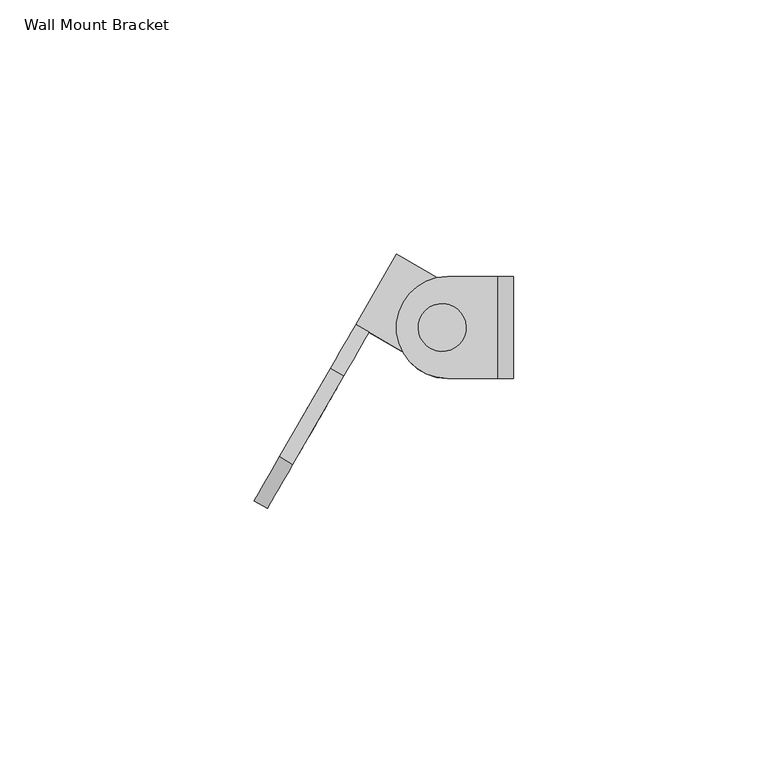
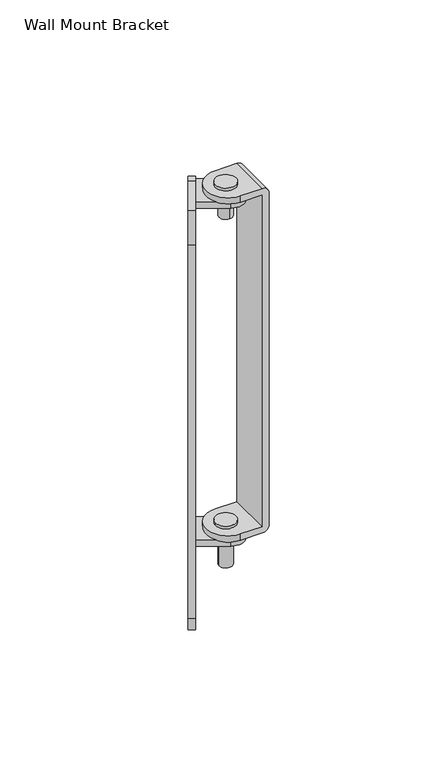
"""IFC4 building model written with IfcOpenShell, lengths in millimetres: proxy geometry, d&b xC-Series Wall Mount Bracket : Wall Mount Bracket."""

from ifc_helpers import new_model, si_unit, point, frame, origin, origin_2d, place, context, project, spatial, polyline, circle_curve, trimmed, segment, composite_curve, outline, extrude, source, transform, mapped, element, save
from ifc_brep_helpers import plane_surface, cylinder_surface, revolved_surface, advanced_brep


def wall_mount_bracket_8d6413a4(model_context):
    return source(origin(), model_context, "Body", "SolidModel", [
        advanced_brep(
        [(-31.9903811, -25.4089653, 100.0), (-21.9903811, -8.0884573, 100.0), (-16.9903811, 0.5717968, 90.0), (-16.9903811, 0.5717968, 83.0), (-8.9903811, 14.4282032, 83.0), (-8.9903811, 14.4282032, -83.0), (-16.9903811, 0.5717968, -83.0), (-16.9903811, 0.5717968, -90.0), (-21.9903811, -8.0884573, -100.0), (-31.9903811, -25.4089653, -100.0), (-36.9903811, -34.0692194, -90.0), (-36.9903811, -34.0692194, 90.0), (-30.7403811, -23.2439018, -15.0), (-23.2403811, -10.2535208, -15.0), (-23.2403811, -10.2535208, 15.0), (-30.7403811, -23.2439018, 15.0), (-26.9903811, -16.7487113, 71.75), (-26.9903811, -16.7487113, 78.25), (-26.9903811, -16.7487113, -78.25), (-26.9903811, -16.7487113, -71.75), (-29.3923048, -26.9089653, 100.0), (-34.3923048, -35.5692194, 90.0), (-34.3923048, -35.5692194, -90.0), (-29.3923048, -26.9089653, -100.0), (-19.3923048, -9.5884573, -100.0), (-14.3923048, -0.9282032, -90.0), (-14.3923048, -0.9282032, -83.0), (-14.3923048, -0.9282032, -80.0), (-6.3923048, 12.9282032, -80.0), (-6.3923048, 12.9282032, 80.0), (-14.3923048, -0.9282032, 80.0), (-14.3923048, -0.9282032, 83.0), (-14.3923048, -0.9282032, 90.0), (-19.3923048, -9.5884573, 100.0), (-28.1423048, -24.7439018, -15.0), (-28.1423048, -24.7439018, 15.0), (-20.6423048, -11.7535208, 15.0), (-20.6423048, -11.7535208, -15.0), (-24.3923048, -18.2487113, 71.75), (-24.3923048, -18.2487113, 78.25), (-24.3923048, -18.2487113, -78.25), (-24.3923048, -18.2487113, -71.75), (5.7320508, 5.9282032, -80.0), (5.7320508, 5.9282032, -83.0), (5.7320508, 5.9282032, 83.0), (5.7320508, 5.9282032, 80.0), (-2.2679492, -7.9282032, 83.0), (5.9282032, -5.7320508, 83.0), (7.9282032, -2.2679492, 83.0), (7.9282032, -2.2679492, 80.0), (5.9282032, -5.7320508, 80.0), (-2.2679492, -7.9282032, 80.0), (-2.2679492, -7.9282032, -80.0), (5.9282032, -5.7320508, -80.0), (7.9282032, -2.2679492, -80.0), (7.9282032, -2.2679492, -83.0), (5.9282032, -5.7320508, -83.0), (-2.2679492, -7.9282032, -83.0)],
        [
            (0, 1),
            (1, 2, circle_curve(frame((-21.9903811, -8.0884573, 90.0), z_axis=(-0.8660254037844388, 0.4999999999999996, 0.0), x_axis=(0.0, 0.0, 1.0)), 10.0)),
            (2, 3),
            (3, 4),
            (4, 5),
            (5, 6),
            (6, 7),
            (7, 8, circle_curve(frame((-21.9903811, -8.0884573, -90.0), z_axis=(-0.8660254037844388, 0.4999999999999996, 0.0), x_axis=(0.0, 0.0, 1.0)), 10.0)),
            (8, 9),
            (9, 10, circle_curve(frame((-31.9903811, -25.4089653, -90.0), z_axis=(-0.8660254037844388, 0.4999999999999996, 0.0), x_axis=(0.0, 0.0, 1.0)), 10.0)),
            (10, 11),
            (11, 0, circle_curve(frame((-31.9903811, -25.4089653, 90.0), z_axis=(-0.8660254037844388, 0.4999999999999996, 0.0), x_axis=(0.0, 0.0, 1.0)), 10.0)),
            (12, 13, circle_curve(frame((-26.9903811, -16.7487113, -15.0), z_axis=(0.8660254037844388, -0.4999999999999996, 0.0), x_axis=(0.0, 0.0, 1.0)), 7.5)),
            (13, 14),
            (14, 15, circle_curve(frame((-26.9903811, -16.7487113, 15.0), z_axis=(0.8660254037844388, -0.4999999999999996, 0.0), x_axis=(0.0, 0.0, 1.0)), 7.5)),
            (15, 12),
            (16, 17, circle_curve(frame((-26.9903811, -16.7487113, 75.0), z_axis=(0.8660254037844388, -0.4999999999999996, 0.0), x_axis=(0.0, 0.0, 1.0)), 3.25)),
            (17, 16, circle_curve(frame((-26.9903811, -16.7487113, 75.0), z_axis=(0.8660254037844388, -0.4999999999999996, 0.0), x_axis=(0.0, 0.0, 1.0)), 3.25)),
            (18, 19, circle_curve(frame((-26.9903811, -16.7487113, -75.0), z_axis=(0.8660254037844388, -0.4999999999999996, 0.0), x_axis=(0.0, 0.0, 1.0)), 3.25)),
            (19, 18, circle_curve(frame((-26.9903811, -16.7487113, -75.0), z_axis=(0.8660254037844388, -0.4999999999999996, 0.0), x_axis=(0.0, 0.0, 1.0)), 3.25)),
            (20, 21, circle_curve(frame((-29.3923048, -26.9089653, 90.0), z_axis=(0.8660254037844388, -0.4999999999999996, 0.0), x_axis=(0.0, 0.0, 1.0)), 10.0)),
            (21, 22),
            (22, 23, circle_curve(frame((-29.3923048, -26.9089653, -90.0), z_axis=(0.8660254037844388, -0.4999999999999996, 0.0), x_axis=(0.0, 0.0, 1.0)), 10.0)),
            (23, 24),
            (24, 25, circle_curve(frame((-19.3923048, -9.5884573, -90.0), z_axis=(0.8660254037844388, -0.4999999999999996, 0.0), x_axis=(0.0, 0.0, 1.0)), 10.0)),
            (25, 26),
            (26, 27),
            (27, 28),
            (28, 29),
            (29, 30),
            (30, 31),
            (31, 32),
            (32, 33, circle_curve(frame((-19.3923048, -9.5884573, 90.0), z_axis=(0.8660254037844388, -0.4999999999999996, 0.0), x_axis=(0.0, 0.0, 1.0)), 10.0)),
            (33, 20),
            (34, 35),
            (35, 36, circle_curve(frame((-24.3923048, -18.2487113, 15.0), z_axis=(-0.8660254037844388, 0.4999999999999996, 0.0), x_axis=(0.0, 0.0, 1.0)), 7.5)),
            (36, 37),
            (37, 34, circle_curve(frame((-24.3923048, -18.2487113, -15.0), z_axis=(-0.8660254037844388, 0.4999999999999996, 0.0), x_axis=(0.0, 0.0, 1.0)), 7.5)),
            (38, 39, circle_curve(frame((-24.3923048, -18.2487113, 75.0), z_axis=(-0.8660254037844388, 0.4999999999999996, 0.0), x_axis=(0.0, 0.0, 1.0)), 3.25)),
            (39, 38, circle_curve(frame((-24.3923048, -18.2487113, 75.0), z_axis=(-0.8660254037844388, 0.4999999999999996, 0.0), x_axis=(0.0, 0.0, 1.0)), 3.25)),
            (40, 41, circle_curve(frame((-24.3923048, -18.2487113, -75.0), z_axis=(-0.8660254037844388, 0.4999999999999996, 0.0), x_axis=(0.0, 0.0, 1.0)), 3.25)),
            (41, 40, circle_curve(frame((-24.3923048, -18.2487113, -75.0), z_axis=(-0.8660254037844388, 0.4999999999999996, 0.0), x_axis=(0.0, 0.0, 1.0)), 3.25)),
            (0, 20),
            (33, 1),
            (32, 2),
            (31, 3),
            (28, 42),
            (42, 43),
            (43, 5),
            (4, 44),
            (44, 45),
            (45, 29),
            (25, 7),
            (6, 26),
            (24, 8),
            (23, 9),
            (22, 10),
            (21, 11),
            (12, 34),
            (37, 13),
            (36, 14),
            (35, 15),
            (46, 47, circle_curve(frame((0.7320508, -2.7320508, 83.0), z_axis=(0.0, 0.0, 1.0), x_axis=(-0.8660254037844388, 0.4999999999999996, 0.0)), 6.0)),
            (47, 48),
            (48, 44, circle_curve(frame((2.7320508, 0.7320508, 83.0), z_axis=(0.0, 0.0, 1.0), x_axis=(-0.8660254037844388, 0.4999999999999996, 0.0)), 6.0)),
            (31, 46),
            (45, 49, circle_curve(frame((2.7320508, 0.7320508, 80.0), z_axis=(0.0, 0.0, -1.0), x_axis=(-0.8660254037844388, 0.4999999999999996, 0.0)), 6.0)),
            (49, 50),
            (50, 51, circle_curve(frame((0.7320508, -2.7320508, 80.0), z_axis=(0.0, 0.0, -1.0), x_axis=(-0.8660254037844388, 0.4999999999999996, 0.0)), 6.0)),
            (51, 30),
            (46, 51),
            (50, 47),
            (49, 48),
            (52, 53, circle_curve(frame((0.7320508, -2.7320508, -80.0), z_axis=(0.0, 0.0, 1.0), x_axis=(-0.8660254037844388, 0.4999999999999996, 0.0)), 6.0)),
            (53, 54),
            (54, 42, circle_curve(frame((2.7320508, 0.7320508, -80.0), z_axis=(0.0, 0.0, 1.0), x_axis=(-0.8660254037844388, 0.4999999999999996, 0.0)), 6.0)),
            (27, 52),
            (43, 55, circle_curve(frame((2.7320508, 0.7320508, -83.0), z_axis=(0.0, 0.0, -1.0), x_axis=(-0.8660254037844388, 0.4999999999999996, 0.0)), 6.0)),
            (55, 56),
            (56, 57, circle_curve(frame((0.7320508, -2.7320508, -83.0), z_axis=(0.0, 0.0, -1.0), x_axis=(-0.8660254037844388, 0.4999999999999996, 0.0)), 6.0)),
            (57, 26),
            (52, 57),
            (56, 53),
            (55, 54),
            (16, 38),
            (39, 17),
            (18, 40),
            (41, 19),
        ],
        [
            plane_surface(frame((-21.9903811, -8.0884573, 100.0), z_axis=(-0.8660254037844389, 0.4999999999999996, 0.0), x_axis=(0.4999999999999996, 0.8660254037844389, 0.0))),
            plane_surface(frame((-19.3923048, -9.5884573, 100.0), z_axis=(0.8660254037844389, -0.4999999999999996, 0.0), x_axis=(-0.4999999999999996, -0.8660254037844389, 0.0))),
            plane_surface(frame((-31.9903811, -25.4089653, 100.0), z_axis=(0.0, 0.0, 1.0), x_axis=(0.8660254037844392, -0.49999999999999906, 0.0))),
            cylinder_surface(frame((-19.3923048, -9.5884573, 90.0), z_axis=(-0.8660254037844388, 0.4999999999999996, 0.0), x_axis=(0.0, 0.0, 1.0)), 10.0),
            plane_surface(frame((-16.9903811, 0.5717968, 90.0), z_axis=(0.49999999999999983, 0.8660254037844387, 0.0), x_axis=(0.8660254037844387, -0.49999999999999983, 0.0))),
            plane_surface(frame((-8.9903811, 14.4282032, 80.0), z_axis=(0.5000000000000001, 0.8660254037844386, 0.0), x_axis=(0.8660254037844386, -0.5000000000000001, 0.0))),
            plane_surface(frame((-16.9903811, 0.5717968, -79.9), z_axis=(0.4999999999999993, 0.8660254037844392, 0.0), x_axis=(0.8660254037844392, -0.4999999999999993, 0.0))),
            cylinder_surface(frame((-19.3923048, -9.5884573, -90.0), z_axis=(-0.8660254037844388, 0.4999999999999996, 0.0), x_axis=(0.0, 0.0, 1.0)), 10.0),
            plane_surface(frame((-21.9903811, -8.0884573, -100.0), z_axis=(0.0, 0.0, -1.0), x_axis=(0.8660254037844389, -0.4999999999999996, 0.0))),
            cylinder_surface(frame((-29.3923048, -26.9089653, -90.0), z_axis=(-0.8660254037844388, 0.4999999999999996, 0.0), x_axis=(0.0, 0.0, 1.0)), 10.0),
            plane_surface(frame((-36.9903811, -34.0692194, -90.0), z_axis=(-0.49999999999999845, -0.8660254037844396, 0.0), x_axis=(0.8660254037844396, -0.49999999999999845, 0.0))),
            cylinder_surface(frame((-29.3923048, -26.9089653, 90.0), z_axis=(-0.8660254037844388, 0.4999999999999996, 0.0), x_axis=(0.0, 0.0, 1.0)), 10.0),
            revolved_surface(polyline([(-24.392304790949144, -18.248711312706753, -7.5), (-26.990381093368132, -16.748711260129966, -7.5)]), (-44.3108891, -6.7487113, -15.0), (0.8660254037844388, -0.4999999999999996, 0.0)),
            plane_surface(frame((-23.2403811, -10.2535208, -15.0), z_axis=(-0.5000000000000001, -0.8660254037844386, 0.0), x_axis=(0.8660254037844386, -0.5000000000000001, 0.0))),
            revolved_surface(polyline([(-24.392304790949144, -18.248711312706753, 22.5), (-26.990381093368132, -16.748711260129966, 22.5)]), (-44.3108891, -6.7487113, 15.0), (0.8660254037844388, -0.4999999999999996, 0.0)),
            plane_surface(frame((-30.7403811, -23.2439018, 15.0), z_axis=(0.49999999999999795, 0.8660254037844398, 0.0), x_axis=(0.8660254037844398, -0.49999999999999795, 0.0))),
            plane_surface(frame((-4.4641016, 0.2679492, 83.0), z_axis=(0.0, 0.0, 1.0), x_axis=(-0.4999999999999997, -0.8660254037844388, 0.0))),
            plane_surface(frame((-4.4641016, 0.2679492, 80.0), z_axis=(0.0, 0.0, -1.0), x_axis=(0.4999999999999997, 0.8660254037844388, 0.0))),
            cylinder_surface(frame((0.7320508, -2.7320508, 80.0), z_axis=(0.0, 0.0, 1.0), x_axis=(-0.8660254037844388, 0.4999999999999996, 0.0)), 6.0),
            plane_surface(frame((5.9282032, -5.7320508, 83.0), z_axis=(0.8660254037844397, -0.49999999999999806, 0.0), x_axis=(0.0, 0.0, -1.0))),
            cylinder_surface(frame((2.7320508, 0.7320508, 80.0), z_axis=(0.0, 0.0, 1.0), x_axis=(-0.8660254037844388, 0.4999999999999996, 0.0)), 6.0),
            plane_surface(frame((-16.9903811, 0.5717968, 83.0), z_axis=(-0.4999999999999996, -0.8660254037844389, 0.0), x_axis=(0.0, 0.0, -1.0))),
            plane_surface(frame((-4.4641016, 0.2679492, -80.0), z_axis=(0.0, 0.0, 1.0), x_axis=(-0.4999999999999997, -0.8660254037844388, 0.0))),
            plane_surface(frame((-4.4641016, 0.2679492, -83.0), z_axis=(0.0, 0.0, -1.0), x_axis=(0.4999999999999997, 0.8660254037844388, 0.0))),
            cylinder_surface(frame((0.7320508, -2.7320508, -83.0), z_axis=(0.0, 0.0, 1.0), x_axis=(-0.8660254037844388, 0.4999999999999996, 0.0)), 6.0),
            plane_surface(frame((5.9282032, -5.7320508, -80.0), z_axis=(0.8660254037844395, -0.4999999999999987, 0.0), x_axis=(0.0, 0.0, -1.0))),
            cylinder_surface(frame((2.7320508, 0.7320508, -83.0), z_axis=(0.0, 0.0, 1.0), x_axis=(-0.8660254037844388, 0.4999999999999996, 0.0)), 6.0),
            plane_surface(frame((-16.9903811, 0.5717968, -80.0), z_axis=(-0.49999999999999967, -0.8660254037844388, 0.0), x_axis=(0.0, 0.0, -1.0))),
            revolved_surface(polyline([(-24.392304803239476, -18.24871130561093, 78.25), (-26.990381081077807, -16.74871126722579, 78.25)]), (-44.3108891, -6.7487113, 75.0), (0.8660254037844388, -0.4999999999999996, 0.0)),
            revolved_surface(polyline([(-24.392304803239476, -18.24871130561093, -71.75), (-26.990381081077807, -16.74871126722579, -71.75)]), (-44.3108891, -6.7487113, -75.0), (0.8660254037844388, -0.4999999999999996, 0.0)),
        ],
        [
            (0, [[1, 2, 3, 4, 5, 6, 7, 8, 9, 10, 11, 12], [13, 14, 15, 16], [17, 18], [19, 20]]),
            (1, [[21, 22, 23, 24, 25, 26, 27, 28, 29, 30, 31, 32, 33, 34], [35, 36, 37, 38], [39, 40], [41, 42]]),
            (2, [[-1, 43, -34, 44]]),
            (3, [[-2, -44, -33, 45]]),
            (4, [[-45, -32, 46, -3]]),
            (5, [[-29, 47, 48, 49, -5, 50, 51, 52]]),
            (6, [[53, -7, 54, -26]]),
            (7, [[-8, -53, -25, 55]]),
            (8, [[-9, -55, -24, 56]]),
            (9, [[-10, -56, -23, 57]]),
            (10, [[-11, -57, -22, 58]]),
            (11, [[-12, -58, -21, -43]]),
            (12, [[-13, 59, -38, 60]]),
            (13, [[-14, -60, -37, 61]]),
            (14, [[-15, -61, -36, 62]]),
            (15, [[-16, -62, -35, -59]]),
            (16, [[63, 64, 65, -50, -4, -46, 66]]),
            (17, [[67, 68, 69, 70, -30, -52]]),
            (18, [[-63, 71, -69, 72]]),
            (19, [[-64, -72, -68, 73]]),
            (20, [[-65, -73, -67, -51]]),
            (21, [[-71, -66, -31, -70]]),
            (22, [[74, 75, 76, -47, -28, 77]]),
            (23, [[-6, -49, 78, 79, 80, 81, -54]]),
            (24, [[-74, 82, -80, 83]]),
            (25, [[-75, -83, -79, 84]]),
            (26, [[-76, -84, -78, -48]]),
            (27, [[-82, -77, -27, -81]]),
            (28, [[-17, 85, -40, 86]]),
            (28, [[-18, -86, -39, -85]]),
            (29, [[-19, 87, -42, 88]]),
            (29, [[-20, -88, -41, -87]]),
        ],
    ),
        extrude(outline(composite_curve([segment(trimmed(circle_curve(origin_2d(), 4.7), [point((-4.6285964, 0.8161464))], [point((4.6285964, -0.8161464))], False, "CARTESIAN"), True, "CONTINUOUS"), segment(trimmed(circle_curve(origin_2d(), 4.7), [point((4.6285964, -0.8161464))], [point((-4.6285964, 0.8161464))], False, "CARTESIAN"), True, "CONTINUOUS")], self_intersect=False)), frame((0.0, 0.0, 86.0), z_axis=(0.0, 0.0, 1.0), x_axis=(1.0, 0.0, 0.0)), (0.0, 0.0, 1.0), 1.27),
        extrude(outline(composite_curve([segment(trimmed(circle_curve(origin_2d(), 4.7), [point((-4.7, 0.0))], [point((4.7, 0.0))], False, "CARTESIAN"), True, "CONTINUOUS"), segment(trimmed(circle_curve(origin_2d(), 4.7), [point((4.7, 0.0))], [point((-4.7, 0.0))], False, "CARTESIAN"), True, "CONTINUOUS")], self_intersect=False)), frame((0.0, 0.0, -77.0), z_axis=(0.0, 0.0, 1.0), x_axis=(1.0, 0.0, 0.0)), (0.0, 0.0, 1.0), 1.27),
        extrude(outline(composite_curve([segment(trimmed(circle_curve(origin_2d(), 3.0338653), [point((0.0, 3.0338653))], [point((0.0, -3.0338653))], False, "CARTESIAN"), True, "CONTINUOUS"), segment(trimmed(circle_curve(origin_2d(), 3.0338653), [point((0.0, -3.0338653))], [point((0.0, 3.0338653))], False, "CARTESIAN"), True, "CONTINUOUS")], self_intersect=False)), frame((0.0, 0.0, 71.0), z_axis=(0.0, 0.0, 1.0), x_axis=(1.0, 0.0, 0.0)), (0.0, 0.0, 1.0), 9.0),
        extrude(outline(composite_curve([segment(trimmed(circle_curve(origin_2d(), 3.0338653), [point((-3.0338653, 0.0))], [point((3.0338653, 0.0))], False, "CARTESIAN"), True, "CONTINUOUS"), segment(trimmed(circle_curve(origin_2d(), 3.0338653), [point((3.0338653, 0.0))], [point((-3.0338653, 0.0))], False, "CARTESIAN"), True, "CONTINUOUS")], self_intersect=False)), frame((0.0, 0.0, -97.0), z_axis=(0.0, 0.0, 1.0), x_axis=(1.0, 0.0, 0.0)), (0.0, 0.0, 1.0), 14.0),
        advanced_brep(
        [(1.0, -10.0, 83.0), (11.0, -10.0, 83.0), (11.0, -10.0, -77.0), (1.0, -10.0, -77.0), (1.0, -10.0, -80.0), (11.0, -10.0, -80.0), (14.0, -10.0, -77.0), (14.0, -10.0, 83.0), (11.0, -10.0, 86.0), (1.0, -10.0, 86.0), (1.0, 10.0, 86.0), (11.0, 10.0, 86.0), (14.0, 10.0, 83.0), (14.0, 10.0, -77.0), (11.0, 10.0, -80.0), (1.0, 10.0, -80.0), (1.0, 10.0, -77.0), (11.0, 10.0, -77.0), (11.0, 10.0, 83.0), (1.0, 10.0, 83.0)],
        [
            (0, 1),
            (1, 2),
            (2, 3),
            (3, 4),
            (4, 5),
            (5, 6, circle_curve(frame((11.0, -10.0, -77.0), z_axis=(0.0, -1.0, 0.0), x_axis=(1.0, 0.0, 0.0)), 3.0)),
            (6, 7),
            (7, 8, circle_curve(frame((11.0, -10.0, 83.0), z_axis=(0.0, -1.0, 0.0), x_axis=(1.0, 0.0, 0.0)), 3.0)),
            (8, 9),
            (9, 0),
            (10, 11),
            (11, 12, circle_curve(frame((11.0, 10.0, 83.0), z_axis=(0.0, 1.0, 0.0), x_axis=(1.0, 0.0, 0.0)), 3.0)),
            (12, 13),
            (13, 14, circle_curve(frame((11.0, 10.0, -77.0), z_axis=(0.0, 1.0, 0.0), x_axis=(1.0, 0.0, 0.0)), 3.0)),
            (14, 15),
            (15, 16),
            (16, 17),
            (17, 18),
            (18, 19),
            (19, 10),
            (0, 19, circle_curve(frame((1.0, 0.0, 83.0), z_axis=(0.0, 0.0, -1.0), x_axis=(1.0, 0.0, 0.0)), 10.0)),
            (18, 1),
            (17, 2),
            (16, 3, circle_curve(frame((1.0, 0.0, -77.0), z_axis=(0.0, 0.0, 1.0), x_axis=(1.0, 0.0, 0.0)), 10.0)),
            (4, 15, circle_curve(frame((1.0, 0.0, -80.0), z_axis=(0.0, 0.0, -1.0), x_axis=(1.0, 0.0, 0.0)), 10.0)),
            (14, 5),
            (13, 6),
            (12, 7),
            (11, 8),
            (10, 9, circle_curve(frame((1.0, 0.0, 86.0), z_axis=(0.0, 0.0, 1.0), x_axis=(1.0, 0.0, 0.0)), 10.0)),
        ],
        [
            plane_surface(frame((1.0, -10.0, 83.0), z_axis=(0.0, -1.0, 0.0), x_axis=(1.0, 0.0, 0.0))),
            plane_surface(frame((1.0, 10.0, 83.0), z_axis=(0.0, 1.0, 0.0), x_axis=(-1.0, 0.0, 0.0))),
            plane_surface(frame((1.0, -10.0, 83.0), z_axis=(0.0, 0.0, -1.0), x_axis=(0.0, 1.0, 0.0))),
            plane_surface(frame((11.0, -10.0, 83.0), z_axis=(-1.0, 0.0, 0.0), x_axis=(0.0, 1.0, 0.0))),
            plane_surface(frame((11.0, -10.0, -77.0), z_axis=(0.0, 0.0, 1.0), x_axis=(0.0, 1.0, 0.0))),
            plane_surface(frame((1.0, -10.0, -80.0), z_axis=(0.0, 0.0, -1.0), x_axis=(0.0, 1.0, 0.0))),
            cylinder_surface(frame((11.0, 10.0, -77.0), z_axis=(0.0, -1.0, 0.0), x_axis=(1.0, 0.0, 0.0)), 3.0),
            plane_surface(frame((14.0, -10.0, -77.0), z_axis=(1.0, 0.0, 0.0), x_axis=(0.0, 1.0, 0.0))),
            cylinder_surface(frame((11.0, 10.0, 83.0), z_axis=(0.0, -1.0, 0.0), x_axis=(1.0, 0.0, 0.0)), 3.0),
            plane_surface(frame((11.0, -10.0, 86.0), z_axis=(0.0, 0.0, 1.0), x_axis=(0.0, 1.0, 0.0))),
            cylinder_surface(frame((1.0, 0.0, 83.0), z_axis=(0.0, 0.0, 1.0), x_axis=(1.0, 0.0, 0.0)), 10.0),
            cylinder_surface(frame((1.0, 0.0, -80.0), z_axis=(0.0, 0.0, 1.0), x_axis=(1.0, 0.0, 0.0)), 10.0),
        ],
        [
            (0, [[1, 2, 3, 4, 5, 6, 7, 8, 9, 10]]),
            (1, [[11, 12, 13, 14, 15, 16, 17, 18, 19, 20]]),
            (2, [[-1, 21, -19, 22]]),
            (3, [[-2, -22, -18, 23]]),
            (4, [[-3, -23, -17, 24]]),
            (5, [[-5, 25, -15, 26]]),
            (6, [[-6, -26, -14, 27]]),
            (7, [[-7, -27, -13, 28]]),
            (8, [[-8, -28, -12, 29]]),
            (9, [[-9, -29, -11, 30]]),
            (10, [[-30, -20, -21, -10]]),
            (11, [[-24, -16, -25, -4]]),
        ],
    ),
    ])


if __name__ == "__main__":
    model = new_model("IFC4")
    model_context = context("Model", 3, world=origin())
    ifc_project = project(units=[si_unit("LENGTHUNIT", "METRE", prefix="MILLI")], contexts=[model_context])
    site = spatial("IfcSite", under=ifc_project)
    building = spatial("IfcBuilding", under=site)
    placement = place(None, origin())
    wall_mount_bracket_shape = wall_mount_bracket_8d6413a4(model_context)
    element("IfcBuildingElementProxy", 1, Name="d&b xC-Series Wall Mount Bracket : Wall Mount Bracket", ObjectType="d&b xC-Series Wall Mount Bracket : Wall Mount Bracket", at=placement, inside=building, context=model_context, shape_type="MappedRepresentation", body=[
        mapped(wall_mount_bracket_shape, transform((0.0, 0.0, 0.0), x_axis=(1.0, 0.0, 0.0), y_axis=(0.0, 1.0, 0.0), z_axis=(0.0, 0.0, 1.0))),
    ])
    save(model, "model.ifc")
